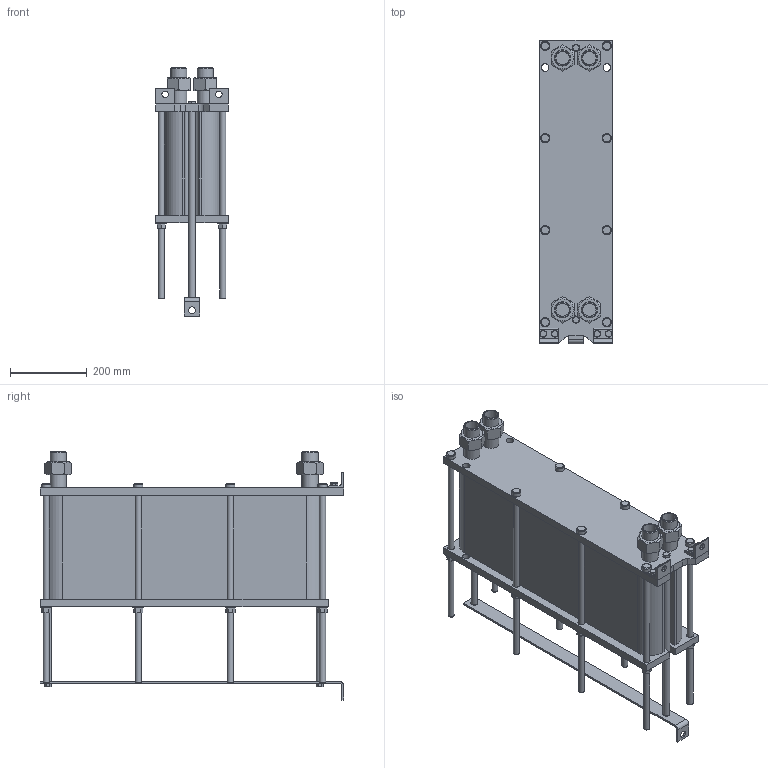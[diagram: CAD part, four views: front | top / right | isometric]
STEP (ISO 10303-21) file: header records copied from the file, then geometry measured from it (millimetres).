
FILE_DESCRIPTION(/* description */ (''),/* implementation_level */ '2;1');
FILE_NAME(/* name */ 'C:\Users\zhuro\Desktop\ENCO\TO\ЭН-008\ЭН-0,5-008-87-1.stp',/* time_stamp */ '2022-06-06T10:53:21+03:00',/* author */ ('zhuro'),/* organization */ (''),/* preprocessor_version */ 'ST-DEVELOPER v18.1',/* originating_system */ 'Autodesk Inventor 2022',/* authorisation */ '');
FILE_SCHEMA (('AUTOMOTIVE_DESIGN { 1 0 10303 214 3 1 1 }'));
Length unit declared in the file: millimetre
Products named in the file (1): ЭН-0,5-008-87-1
Bounding box: 190 x 790 x 646.6 mm (x, y, z)
Volume: 34408324.2 mm3; surface area: 1911560 mm2
Topology: 40 solids, 40 shells, 428 faces, 924 edges, 606 vertices
Faces by surface type: plane 273, cylinder 109, cone 40, torus 6
Full cylindrical faces by diameter (mm): 12 x6, 14 x2, 16 x20, 17 x8, 18 x19, 20 x5, 24 x8, 28 x8, 34.3 x8, 42.3 x8
Entity records: 15843 total; most frequent: CARTESIAN_POINT 5991, DIRECTION 1984, ORIENTED_EDGE 1848, EDGE_CURVE 924, AXIS2_PLACEMENT_3D 715, VERTEX_POINT 606, LINE 554, VECTOR 554
